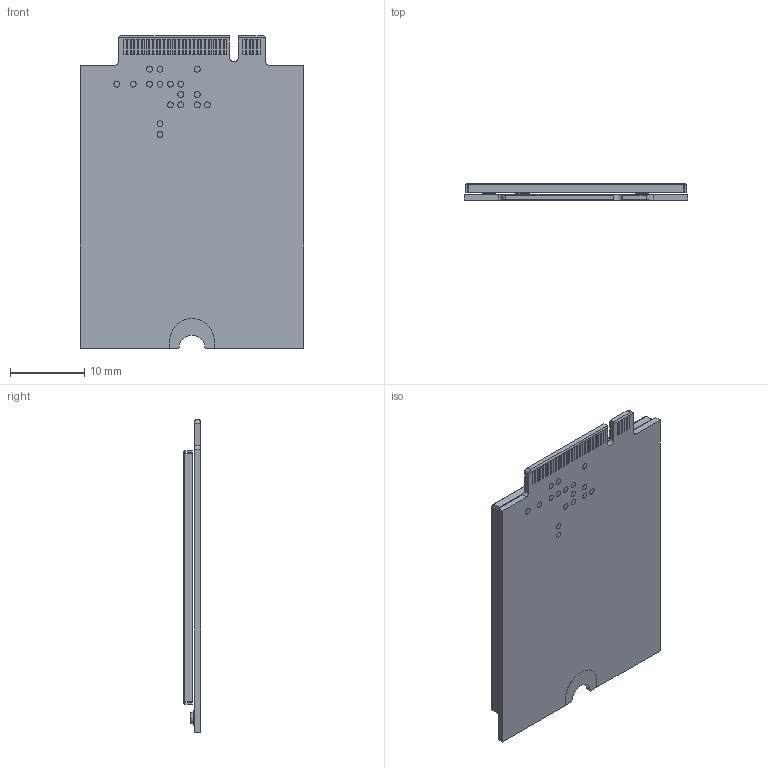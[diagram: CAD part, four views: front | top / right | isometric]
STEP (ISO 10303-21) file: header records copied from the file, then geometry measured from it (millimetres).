
FILE_DESCRIPTION((''),'2;1');
FILE_NAME('EM05-XX_ASSY_3D_ASM','2020-06-23T',('cesare.chen'),(''),'CREO PARAMETRIC BY PTC INC, 2014190','CREO PARAMETRIC BY PTC INC, 2014190','');
FILE_SCHEMA(('CONFIG_CONTROL_DESIGN'));
Products named in the file (4): EM05_PCB; COAXIAL_CONNECTOR_01; EM05_SHIELDING_COVER; EM05-XX_ASSY_3D_ASM
Assembly tree (5 placements, depth 2):
  EM05-XX_ASSY_3D_ASM
    EM05_PCB
    COAXIAL_CONNECTOR_01  x3
    EM05_SHIELDING_COVER
Bounding box: 30 x 2.3 x 42 mm (x, y, z)
Volume: 1193.6 mm3; surface area: 4866.6 mm2
Topology: 5 solids, 5 shells, 2679 faces, 7188 edges, 4734 vertices
Faces by surface type: plane 2559, cylinder 73, extrusion 47
Entity records: 104169 total; most frequent: CARTESIAN_POINT 15054, ORIENTED_EDGE 13956, DIRECTION 12163, PRESENTATION_STYLE_ASSIGNMENT 7228, STYLED_ITEM 6981, CURVE_STYLE 6978, EDGE_CURVE 6978, VECTOR 6817
